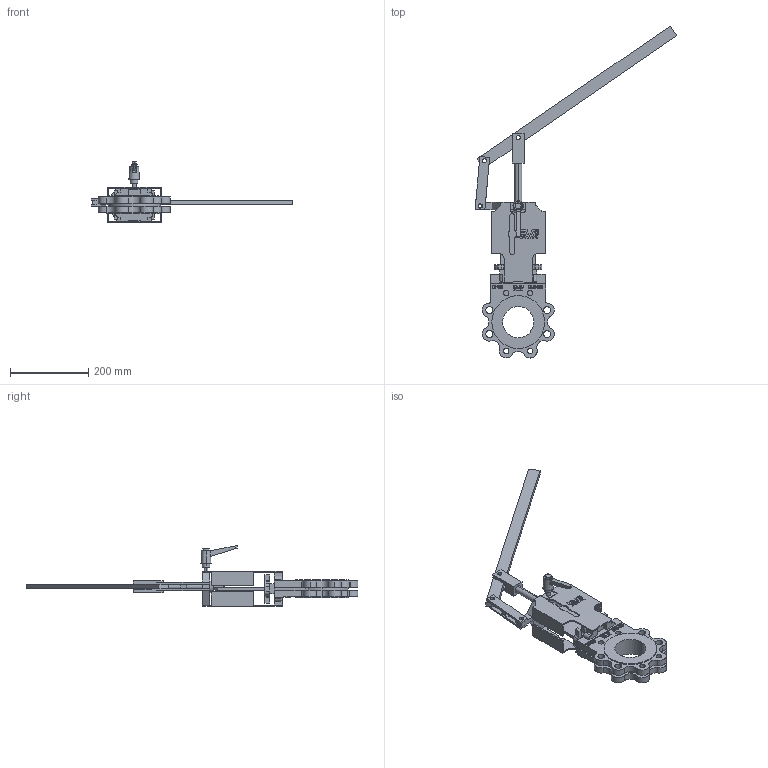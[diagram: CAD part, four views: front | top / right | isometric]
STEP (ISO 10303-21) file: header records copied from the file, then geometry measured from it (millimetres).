
FILE_DESCRIPTION (( 'STEP AP203' ), '1' );
FILE_NAME ('70208030034.STEP', '2017-04-19T08:47:45', ( '' ), ( '' ), 'SwSTEP 2.0', 'SolidWorks 2016', '' );
FILE_SCHEMA (( 'CONFIG_CONTROL_DESIGN' ));
Products named in the file (1): 70208030034
Bounding box: 516.49 x 849.56 x 155.5 mm (x, y, z)
Volume: 1922877 mm3; surface area: 395115.7 mm2
Topology: 1 solids, 1 shells, 1094 faces, 3086 edges, 2049 vertices
Faces by surface type: plane 527, cylinder 398, bspline 163, cone 6
Entity records: 45627 total; most frequent: CARTESIAN_POINT 17401, ORIENTED_EDGE 6172, DIRECTION 5420, EDGE_CURVE 3086, VERTEX_POINT 2049, VECTOR 1950, LINE 1950, AXIS2_PLACEMENT_3D 1735
